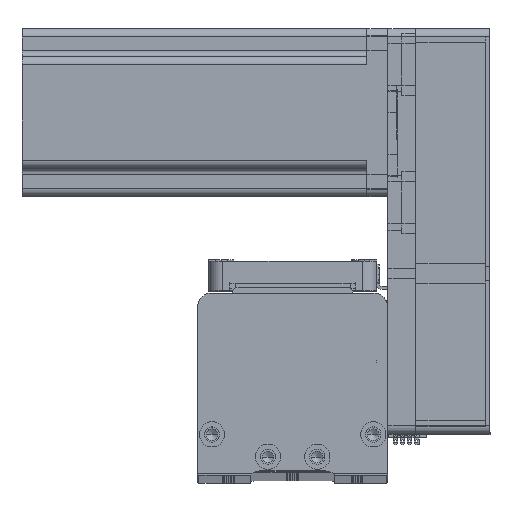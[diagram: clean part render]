
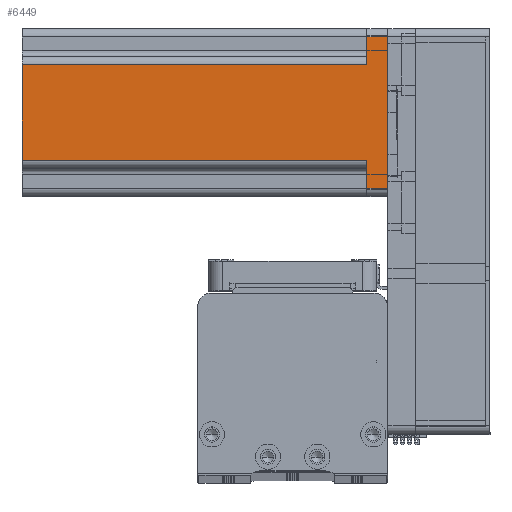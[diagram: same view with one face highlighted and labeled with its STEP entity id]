
A CAD part, top view. The second image highlights one B-rep face of the part: STEP entity #6449.
In plain terms, the highlighted planar face has unit normal (0, 0, 1) as drawn and (0, -1, 0) by its records, which use the part's own axes.
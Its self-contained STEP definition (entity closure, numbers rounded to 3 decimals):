
#453 = EDGE_LOOP ( 'NONE', ( #10786, #24882, #30006, #16853, #21529, #508, #34277, #16529 ) ) ;
#508 = ORIENTED_EDGE ( 'NONE', *, *, #50490, .T. ) ;
#1821 = VECTOR ( 'NONE', #50841, 1000. ) ;
#3534 = VERTEX_POINT ( 'NONE', #50057 ) ;
#5077 = DIRECTION ( 'NONE',  ( 1., 0., 0. ) ) ;
#5267 = DIRECTION ( 'NONE',  ( -1., 0., 0. ) ) ;
#5902 = CARTESIAN_POINT ( 'NONE',  ( 27., -30., 130.7 ) ) ;
#6184 = CARTESIAN_POINT ( 'NONE',  ( -27., -30., 7.5 ) ) ;
#6345 = CARTESIAN_POINT ( 'NONE',  ( -17., -30., 130.7 ) ) ;
#6449 = ADVANCED_FACE ( 'NONE', ( #20763 ), #18334, .F. ) ;
#7489 = EDGE_CURVE ( 'NONE', #51119, #39501, #44132, .T. ) ;
#10010 = DIRECTION ( 'NONE',  ( 0., 1., 0. ) ) ;
#10786 = ORIENTED_EDGE ( 'NONE', *, *, #39817, .F. ) ;
#11159 = CARTESIAN_POINT ( 'NONE',  ( 17., -30., 7.5 ) ) ;
#12176 = VERTEX_POINT ( 'NONE', #11159 ) ;
#13596 = VECTOR ( 'NONE', #46208, 1000. ) ;
#13874 = CARTESIAN_POINT ( 'NONE',  ( -20., -30., 7.5 ) ) ;
#15121 = EDGE_CURVE ( 'NONE', #26211, #39501, #32624, .T. ) ;
#16529 = ORIENTED_EDGE ( 'NONE', *, *, #19724, .T. ) ;
#16853 = ORIENTED_EDGE ( 'NONE', *, *, #52493, .T. ) ;
#17384 = CARTESIAN_POINT ( 'NONE',  ( 17., -30., 130.7 ) ) ;
#18334 = PLANE ( 'NONE',  #18375 ) ;
#18375 = AXIS2_PLACEMENT_3D ( 'NONE', #35281, #10010, #39554 ) ;
#19724 = EDGE_CURVE ( 'NONE', #12176, #41291, #36027, .T. ) ;
#20316 = DIRECTION ( 'NONE',  ( 1., 0., 0. ) ) ;
#20763 = FACE_OUTER_BOUND ( 'NONE', #453, .T. ) ;
#21303 = CARTESIAN_POINT ( 'NONE',  ( -27., -30., 130.7 ) ) ;
#21529 = ORIENTED_EDGE ( 'NONE', *, *, #22365, .T. ) ;
#21638 = CARTESIAN_POINT ( 'NONE',  ( 30., -30., 130.7 ) ) ;
#22365 = EDGE_CURVE ( 'NONE', #46475, #3534, #40891, .T. ) ;
#24882 = ORIENTED_EDGE ( 'NONE', *, *, #15121, .T. ) ;
#25916 = CARTESIAN_POINT ( 'NONE',  ( 27., -30., 7.5 ) ) ;
#26211 = VERTEX_POINT ( 'NONE', #6345 ) ;
#27204 = CARTESIAN_POINT ( 'NONE',  ( -17., -30., 7.5 ) ) ;
#30006 = ORIENTED_EDGE ( 'NONE', *, *, #7489, .F. ) ;
#31470 = EDGE_CURVE ( 'NONE', #36657, #12176, #33024, .T. ) ;
#31539 = VECTOR ( 'NONE', #47651, 1000. ) ;
#31707 = VECTOR ( 'NONE', #5267, 1000. ) ;
#32624 = LINE ( 'NONE', #51381, #53760 ) ;
#33024 = LINE ( 'NONE', #47489, #31707 ) ;
#34089 = LINE ( 'NONE', #21303, #1821 ) ;
#34277 = ORIENTED_EDGE ( 'NONE', *, *, #31470, .T. ) ;
#34456 = VECTOR ( 'NONE', #47929, 1000. ) ;
#34937 = VECTOR ( 'NONE', #5077, 1000. ) ;
#35281 = CARTESIAN_POINT ( 'NONE',  ( 30., -30., 130.7 ) ) ;
#36027 = LINE ( 'NONE', #37510, #13596 ) ;
#36657 = VERTEX_POINT ( 'NONE', #25916 ) ;
#37133 = LINE ( 'NONE', #5902, #34456 ) ;
#37510 = CARTESIAN_POINT ( 'NONE',  ( 17., -30., 130.7 ) ) ;
#38681 = DIRECTION ( 'NONE',  ( 0., 0., -1. ) ) ;
#39501 = VERTEX_POINT ( 'NONE', #27204 ) ;
#39554 = DIRECTION ( 'NONE',  ( -1., 0., 0. ) ) ;
#39817 = EDGE_CURVE ( 'NONE', #26211, #41291, #46187, .T. ) ;
#40891 = LINE ( 'NONE', #49861, #52088 ) ;
#41291 = VERTEX_POINT ( 'NONE', #17384 ) ;
#44132 = LINE ( 'NONE', #13874, #31539 ) ;
#45271 = CARTESIAN_POINT ( 'NONE',  ( -27., -30., 0. ) ) ;
#46187 = LINE ( 'NONE', #21638, #34937 ) ;
#46208 = DIRECTION ( 'NONE',  ( 0., 0., 1. ) ) ;
#46475 = VERTEX_POINT ( 'NONE', #45271 ) ;
#47489 = CARTESIAN_POINT ( 'NONE',  ( 20., -30., 7.5 ) ) ;
#47651 = DIRECTION ( 'NONE',  ( 1., 0., 0. ) ) ;
#47929 = DIRECTION ( 'NONE',  ( 0., 0., 1. ) ) ;
#49861 = CARTESIAN_POINT ( 'NONE',  ( 30., -30., 0. ) ) ;
#50057 = CARTESIAN_POINT ( 'NONE',  ( 27., -30., 0. ) ) ;
#50490 = EDGE_CURVE ( 'NONE', #3534, #36657, #37133, .T. ) ;
#50841 = DIRECTION ( 'NONE',  ( 0., 0., -1. ) ) ;
#51119 = VERTEX_POINT ( 'NONE', #6184 ) ;
#51381 = CARTESIAN_POINT ( 'NONE',  ( -17., -30., 130.7 ) ) ;
#52088 = VECTOR ( 'NONE', #20316, 1000. ) ;
#52493 = EDGE_CURVE ( 'NONE', #51119, #46475, #34089, .T. ) ;
#53760 = VECTOR ( 'NONE', #38681, 1000. ) ;
